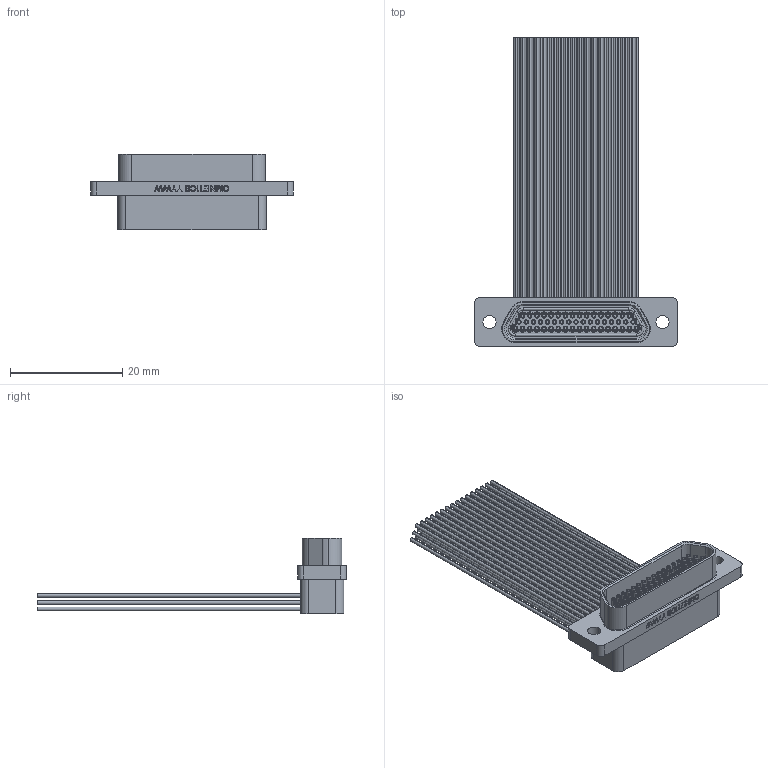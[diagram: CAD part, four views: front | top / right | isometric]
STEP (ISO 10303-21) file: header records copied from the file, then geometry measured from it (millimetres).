
FILE_DESCRIPTION (( 'STEP AP214' ), '1' );
FILE_NAME ('A99308-513 REV A.STEP', '2021-01-20T20:32:03', ( '' ), ( '' ), 'SwSTEP 2.0', 'SolidWorks 2019', '' );
FILE_SCHEMA (( 'AUTOMOTIVE_DESIGN' ));
Length unit declared in the file: inch
Products named in the file (1): A99308-513 REV A
Bounding box: 36.2 x 55.17 x 13.54 mm (x, y, z)
Volume: 3123.3 mm3; surface area: 8285 mm2
Topology: 1 solids, 2 shells, 1202 faces, 2667 edges, 1735 vertices
Faces by surface type: cylinder 637, plane 419, torus 87, bspline 54, cone 5
Entity records: 52199 total; most frequent: CARTESIAN_POINT 8805, DIRECTION 6285, ORIENTED_EDGE 5322, EDGE_CURVE 2661, AXIS2_PLACEMENT_3D 2591, VERTEX_POINT 1735, EDGE_LOOP 1480, CIRCLE 1442
